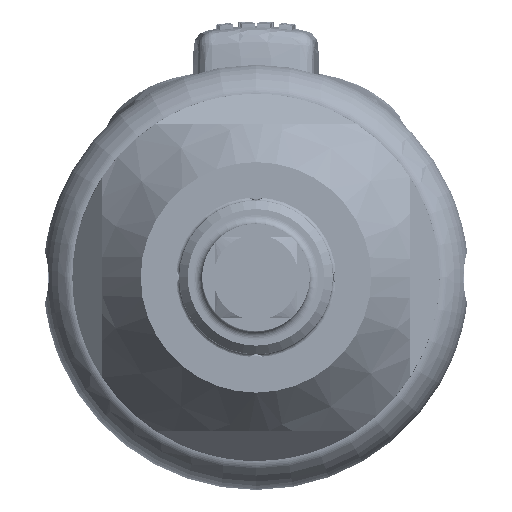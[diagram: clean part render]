
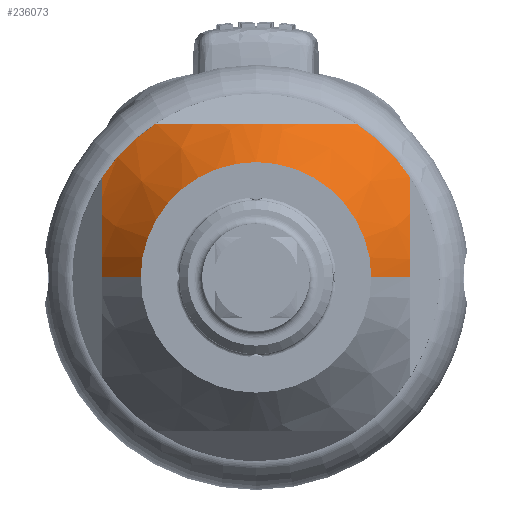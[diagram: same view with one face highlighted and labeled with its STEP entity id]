
A CAD part, front view. The second image highlights one B-rep face of the part: STEP entity #236073.
In plain terms, the highlighted conical face has half-angle 39.226 degrees and reference radius 17.5 mm.
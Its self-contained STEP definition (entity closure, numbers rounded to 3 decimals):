
#235258=CARTESIAN_POINT('',(0.,0.,42.3));
#235259=DIRECTION('',(0.,0.,-1.));
#235260=DIRECTION('',(0.,-1.,0.));
#235261=AXIS2_PLACEMENT_3D('',#235258,#235259,#235260);
#235290=CARTESIAN_POINT('',(0.,-18.,36.788));
#235292=CARTESIAN_POINT('',(0.,18.,36.788));
#235345=CARTESIAN_POINT('',(0.,0.,32.5));
#235346=DIRECTION('',(0.,0.,1.));
#235347=DIRECTION('',(-0.547,0.837,0.));
#235348=AXIS2_PLACEMENT_3D('',#235345,#235346,#235347);
#235389=CARTESIAN_POINT('',(0.,0.,32.5));
#235390=DIRECTION('',(0.,0.,1.));
#235391=DIRECTION('',(-0.837,-0.547,0.));
#235392=AXIS2_PLACEMENT_3D('',#235389,#235390,#235391);
#235432=CARTESIAN_POINT('',(0.,-18.,36.788));
#235433=CARTESIAN_POINT('',(-0.596,-18.,36.788));
#235434=CARTESIAN_POINT('',(-1.795,-18.,36.715));
#235435=CARTESIAN_POINT('',(-3.606,-18.,36.385));
#235436=CARTESIAN_POINT('',(-5.464,-18.,35.83));
#235437=CARTESIAN_POINT('',(-7.4,-18.,35.033));
#235438=CARTESIAN_POINT('',(-9.468,-18.,33.96));
#235439=CARTESIAN_POINT('',(-10.977,-18.,33.023));
#235440=CARTESIAN_POINT('',(-11.758,-18.,32.5));
#235442=CARTESIAN_POINT('',(-18.,-11.758,32.5));
#235443=CARTESIAN_POINT('',(-18.,-10.899,33.075));
#235444=CARTESIAN_POINT('',(-18.,-9.245,34.094));
#235445=CARTESIAN_POINT('',(-18.,-6.996,35.223));
#235446=CARTESIAN_POINT('',(-18.,-4.907,36.025));
#235447=CARTESIAN_POINT('',(-18.,-2.912,36.543));
#235448=CARTESIAN_POINT('',(-18.,-0.965,36.798));
#235449=CARTESIAN_POINT('',(-18.,0.966,36.798));
#235450=CARTESIAN_POINT('',(-18.,2.912,36.543));
#235451=CARTESIAN_POINT('',(-18.,4.907,36.025));
#235452=CARTESIAN_POINT('',(-18.,6.995,35.224));
#235453=CARTESIAN_POINT('',(-18.,9.245,34.094));
#235454=CARTESIAN_POINT('',(-18.,10.899,33.076));
#235455=CARTESIAN_POINT('',(-18.,11.758,32.5));
#235457=CARTESIAN_POINT('',(-11.758,18.,32.5));
#235458=CARTESIAN_POINT('',(-10.976,18.,33.024));
#235459=CARTESIAN_POINT('',(-9.467,18.,33.961));
#235460=CARTESIAN_POINT('',(-7.398,18.,35.034));
#235461=CARTESIAN_POINT('',(-5.462,18.,35.83));
#235462=CARTESIAN_POINT('',(-3.604,18.,36.386));
#235463=CARTESIAN_POINT('',(-1.793,18.,36.715));
#235464=CARTESIAN_POINT('',(-0.595,18.,36.788));
#235465=CARTESIAN_POINT('',(0.,18.,36.788));
#235467=DIRECTION('',(0.,0.632,-0.775));
#235468=VECTOR('',#235467,7.116);
#235469=CARTESIAN_POINT('',(0.,13.5,42.3));
#235470=LINE('',#235469,#235468);
#235471=DIRECTION('',(0.,-0.632,-0.775));
#235472=VECTOR('',#235471,7.116);
#235473=CARTESIAN_POINT('',(0.,-13.5,42.3));
#235474=LINE('',#235473,#235472);
#235543=CARTESIAN_POINT('',(0.,13.5,42.3));
#235544=CARTESIAN_POINT('',(0.,-13.5,42.3));
#235545=VERTEX_POINT('',#235543);
#235546=VERTEX_POINT('',#235544);
#235551=CARTESIAN_POINT('',(-11.758,18.,32.5));
#235552=VERTEX_POINT('',#235551);
#235553=VERTEX_POINT('',#235292);
#235556=CARTESIAN_POINT('',(-18.,11.758,32.5));
#235557=VERTEX_POINT('',#235556);
#235559=CARTESIAN_POINT('',(-18.,-11.758,32.5));
#235560=VERTEX_POINT('',#235559);
#235563=CARTESIAN_POINT('',(-11.758,-18.,32.5));
#235564=VERTEX_POINT('',#235563);
#235567=VERTEX_POINT('',#235290);
#236056=CARTESIAN_POINT('',(0.,0.,37.4));
#236057=DIRECTION('',(0.,0.,-1.));
#236058=DIRECTION('',(0.,-1.,0.));
#236059=AXIS2_PLACEMENT_3D('',#236056,#236057,#236058);
#236060=CONICAL_SURFACE('',#236059,17.5,39.226);
#236062=ORIENTED_EDGE('',*,*,#236061,.T.);
#236063=ORIENTED_EDGE('',*,*,#236015,.F.);
#236064=ORIENTED_EDGE('',*,*,#236049,.T.);
#236065=ORIENTED_EDGE('',*,*,#235966,.F.);
#236067=ORIENTED_EDGE('',*,*,#236066,.T.);
#236068=ORIENTED_EDGE('',*,*,#235923,.F.);
#236069=ORIENTED_EDGE('',*,*,#235887,.F.);
#236070=ORIENTED_EDGE('',*,*,#235920,.T.);
#236071=EDGE_LOOP('',(#236062,#236063,#236064,#236065,#236067,#236068,#236069,
#236070));
#236072=FACE_OUTER_BOUND('',#236071,.F.);
#236073=ADVANCED_FACE('',(#236072),#236060,.T.);
#235262=CIRCLE('',#235261,13.5);
#235349=CIRCLE('',#235348,21.5);
#235393=CIRCLE('',#235392,21.5);
#235441=B_SPLINE_CURVE_WITH_KNOTS('',3,(#235432,#235433,#235434,#235435,#235436,
#235437,#235438,#235439,#235440),.UNSPECIFIED.,.F.,.F.,(4,1,1,1,1,1,4),(0.,
0.167,0.333,0.5,0.667,0.833,
1.),.UNSPECIFIED.);
#235456=B_SPLINE_CURVE_WITH_KNOTS('',3,(#235442,#235443,#235444,#235445,#235446,
#235447,#235448,#235449,#235450,#235451,#235452,#235453,#235454,#235455),
.UNSPECIFIED.,.F.,.F.,(4,1,1,1,1,1,1,1,1,1,1,4),(0.,0.091,
0.182,0.273,0.364,0.455,
0.545,0.636,0.727,0.818,
0.909,1.),.UNSPECIFIED.);
#235466=B_SPLINE_CURVE_WITH_KNOTS('',3,(#235457,#235458,#235459,#235460,#235461,
#235462,#235463,#235464,#235465),.UNSPECIFIED.,.F.,.F.,(4,1,1,1,1,1,4),(0.,
0.167,0.333,0.5,0.667,0.833,
1.),.UNSPECIFIED.);
#235887=EDGE_CURVE('',#235546,#235545,#235262,.T.);
#235920=EDGE_CURVE('',#235546,#235567,#235474,.T.);
#235923=EDGE_CURVE('',#235545,#235553,#235470,.T.);
#235966=EDGE_CURVE('',#235552,#235557,#235349,.T.);
#236015=EDGE_CURVE('',#235560,#235564,#235393,.T.);
#236049=EDGE_CURVE('',#235560,#235557,#235456,.T.);
#236061=EDGE_CURVE('',#235567,#235564,#235441,.T.);
#236066=EDGE_CURVE('',#235552,#235553,#235466,.T.);
